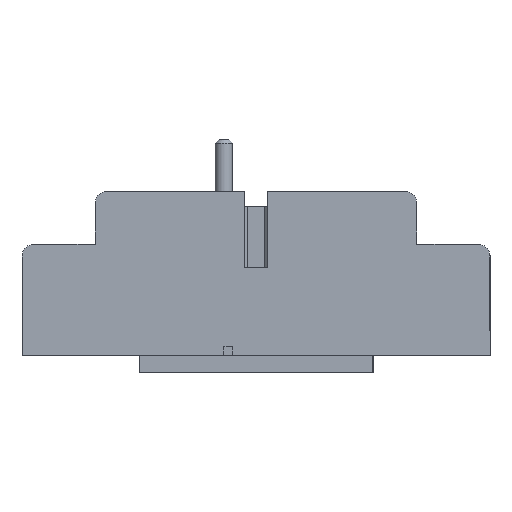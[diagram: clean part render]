
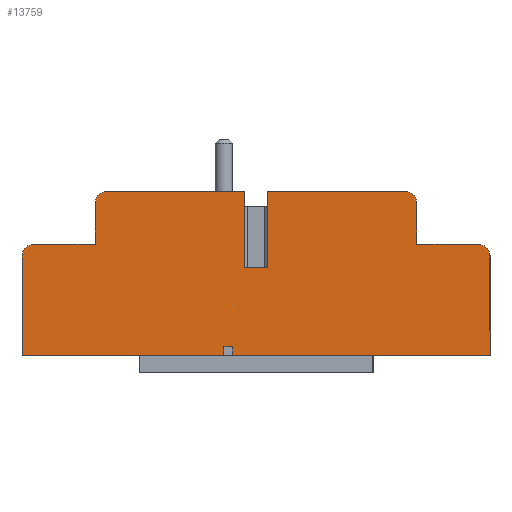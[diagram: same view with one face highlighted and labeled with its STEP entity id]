
A CAD part, left-side view. The second image highlights one B-rep face of the part: STEP entity #13759.
In plain terms, the highlighted planar face has unit normal (-1, 0, 0).
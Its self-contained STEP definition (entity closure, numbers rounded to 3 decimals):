
#13327=CARTESIAN_POINT('',(-46.067,0.229,-50.107));
#13328=VERTEX_POINT('',#13327);
#13335=CARTESIAN_POINT('',(-46.067,20.229,-50.107));
#13336=VERTEX_POINT('',#13335);
#13337=CARTESIAN_POINT('',(-46.067,0.229,-50.107));
#13338=DIRECTION('',(0.0,1.0,0.0));
#13339=VECTOR('',#13338,20.0);
#13340=LINE('',#13337,#13339);
#13341=EDGE_CURVE('',#13328,#13336,#13340,.T.);
#13365=CARTESIAN_POINT('',(-46.067,-39.771,-50.107));
#13366=VERTEX_POINT('',#13365);
#13381=CARTESIAN_POINT('',(-46.067,-59.771,-50.107));
#13382=VERTEX_POINT('',#13381);
#13389=CARTESIAN_POINT('',(-46.067,-59.771,-50.107));
#13390=DIRECTION('',(0.0,1.0,0.0));
#13391=VECTOR('',#13390,20.0);
#13392=LINE('',#13389,#13391);
#13393=EDGE_CURVE('',#13382,#13366,#13392,.T.);
#13403=CARTESIAN_POINT('',(-46.067,-14.271,-48.607));
#13404=VERTEX_POINT('',#13403);
#13413=CARTESIAN_POINT('',(-46.067,-14.271,-50.107));
#13414=VERTEX_POINT('',#13413);
#13415=CARTESIAN_POINT('',(-46.067,-14.271,-50.107));
#13416=DIRECTION('',(0.0,0.0,1.0));
#13417=VECTOR('',#13416,1.5);
#13418=LINE('',#13415,#13417);
#13419=EDGE_CURVE('',#13414,#13404,#13418,.T.);
#13474=CARTESIAN_POINT('',(-46.067,-15.771,-48.607));
#13475=VERTEX_POINT('',#13474);
#13483=CARTESIAN_POINT('',(-46.067,-15.771,-50.107));
#13484=VERTEX_POINT('',#13483);
#13491=CARTESIAN_POINT('',(-46.067,-15.771,-48.607));
#13492=DIRECTION('',(0.0,0.0,-1.0));
#13493=VECTOR('',#13492,1.5);
#13494=LINE('',#13491,#13493);
#13495=EDGE_CURVE('',#13475,#13484,#13494,.T.);
#13508=CARTESIAN_POINT('',(-46.067,-14.271,-48.607));
#13509=DIRECTION('',(0.0,-1.0,0.0));
#13510=VECTOR('',#13509,1.5);
#13511=LINE('',#13508,#13510);
#13512=EDGE_CURVE('',#13404,#13475,#13511,.T.);
#13613=CARTESIAN_POINT('',(-46.067,-19.771,-37.149));
#13614=DIRECTION('',(-1.0,0.0,0.0));
#13615=DIRECTION('',(0.0,-1.0,0.0));
#13616=AXIS2_PLACEMENT_3D('',#13613,#13614,#13615);
#13617=PLANE('',#13616);
#13618=ORIENTED_EDGE('',*,*,#13419,.T.);
#13619=ORIENTED_EDGE('',*,*,#13512,.T.);
#13620=ORIENTED_EDGE('',*,*,#13495,.T.);
#13621=CARTESIAN_POINT('',(-46.067,-39.771,-50.107));
#13622=DIRECTION('',(0.0,1.0,0.0));
#13623=VECTOR('',#13622,24.);
#13624=LINE('',#13621,#13623);
#13625=EDGE_CURVE('',#13366,#13484,#13624,.T.);
#13626=ORIENTED_EDGE('',*,*,#13625,.F.);
#13627=ORIENTED_EDGE('',*,*,#13393,.F.);
#13628=CARTESIAN_POINT('',(-46.067,-59.771,-33.107));
#13629=VERTEX_POINT('',#13628);
#13630=CARTESIAN_POINT('',(-46.067,-59.771,-33.107));
#13631=DIRECTION('',(0.0,0.0,-1.0));
#13632=VECTOR('',#13631,17.);
#13633=LINE('',#13630,#13632);
#13634=EDGE_CURVE('',#13629,#13382,#13633,.T.);
#13635=ORIENTED_EDGE('',*,*,#13634,.F.);
#13636=CARTESIAN_POINT('',(-46.067,-57.771,-31.107));
#13637=VERTEX_POINT('',#13636);
#13638=CARTESIAN_POINT('',(-46.067,-57.771,-33.107));
#13639=DIRECTION('',(1.,0.,0.));
#13640=DIRECTION('',(0.,-0.707,0.707));
#13641=AXIS2_PLACEMENT_3D('',#13638,#13639,#13640);
#13642=CIRCLE('',#13641,2.);
#13643=EDGE_CURVE('',#13637,#13629,#13642,.T.);
#13644=ORIENTED_EDGE('',*,*,#13643,.F.);
#13645=CARTESIAN_POINT('',(-46.067,-47.271,-31.107));
#13646=VERTEX_POINT('',#13645);
#13647=CARTESIAN_POINT('',(-46.067,-47.271,-31.107));
#13648=DIRECTION('',(0.0,-1.0,0.0));
#13649=VECTOR('',#13648,10.5);
#13650=LINE('',#13647,#13649);
#13651=EDGE_CURVE('',#13646,#13637,#13650,.T.);
#13652=ORIENTED_EDGE('',*,*,#13651,.F.);
#13653=CARTESIAN_POINT('',(-46.067,-47.271,-24.107));
#13654=VERTEX_POINT('',#13653);
#13655=CARTESIAN_POINT('',(-46.067,-47.271,-24.107));
#13656=DIRECTION('',(0.0,0.0,-1.0));
#13657=VECTOR('',#13656,7.);
#13658=LINE('',#13655,#13657);
#13659=EDGE_CURVE('',#13654,#13646,#13658,.T.);
#13660=ORIENTED_EDGE('',*,*,#13659,.F.);
#13661=CARTESIAN_POINT('',(-46.067,-45.271,-22.107));
#13662=VERTEX_POINT('',#13661);
#13663=CARTESIAN_POINT('',(-46.067,-45.271,-24.107));
#13664=DIRECTION('',(1.,0.,0.));
#13665=DIRECTION('',(0.,-0.707,0.707));
#13666=AXIS2_PLACEMENT_3D('',#13663,#13664,#13665);
#13667=CIRCLE('',#13666,2.);
#13668=EDGE_CURVE('',#13662,#13654,#13667,.T.);
#13669=ORIENTED_EDGE('',*,*,#13668,.F.);
#13670=CARTESIAN_POINT('',(-46.067,-21.771,-22.107));
#13671=VERTEX_POINT('',#13670);
#13672=CARTESIAN_POINT('',(-46.067,-21.771,-22.107));
#13673=DIRECTION('',(0.0,-1.0,0.0));
#13674=VECTOR('',#13673,23.5);
#13675=LINE('',#13672,#13674);
#13676=EDGE_CURVE('',#13671,#13662,#13675,.T.);
#13677=ORIENTED_EDGE('',*,*,#13676,.F.);
#13678=CARTESIAN_POINT('',(-46.067,-21.771,-35.107));
#13679=VERTEX_POINT('',#13678);
#13680=CARTESIAN_POINT('',(-46.067,-21.771,-22.107));
#13681=DIRECTION('',(0.0,0.0,-1.0));
#13682=VECTOR('',#13681,13.);
#13683=LINE('',#13680,#13682);
#13684=EDGE_CURVE('',#13671,#13679,#13683,.T.);
#13685=ORIENTED_EDGE('',*,*,#13684,.T.);
#13686=CARTESIAN_POINT('',(-46.067,-17.771,-35.107));
#13687=VERTEX_POINT('',#13686);
#13688=CARTESIAN_POINT('',(-46.067,-21.771,-35.107));
#13689=DIRECTION('',(0.0,1.0,0.0));
#13690=VECTOR('',#13689,4.);
#13691=LINE('',#13688,#13690);
#13692=EDGE_CURVE('',#13679,#13687,#13691,.T.);
#13693=ORIENTED_EDGE('',*,*,#13692,.T.);
#13694=CARTESIAN_POINT('',(-46.067,-17.771,-22.107));
#13695=VERTEX_POINT('',#13694);
#13696=CARTESIAN_POINT('',(-46.067,-17.771,-35.107));
#13697=DIRECTION('',(0.0,0.0,1.0));
#13698=VECTOR('',#13697,13.);
#13699=LINE('',#13696,#13698);
#13700=EDGE_CURVE('',#13687,#13695,#13699,.T.);
#13701=ORIENTED_EDGE('',*,*,#13700,.T.);
#13702=CARTESIAN_POINT('',(-46.067,5.729,-22.107));
#13703=VERTEX_POINT('',#13702);
#13704=CARTESIAN_POINT('',(-46.067,5.729,-22.107));
#13705=DIRECTION('',(0.0,-1.0,0.0));
#13706=VECTOR('',#13705,23.5);
#13707=LINE('',#13704,#13706);
#13708=EDGE_CURVE('',#13703,#13695,#13707,.T.);
#13709=ORIENTED_EDGE('',*,*,#13708,.F.);
#13710=CARTESIAN_POINT('',(-46.067,7.729,-24.107));
#13711=VERTEX_POINT('',#13710);
#13712=CARTESIAN_POINT('',(-46.067,5.729,-24.107));
#13713=DIRECTION('',(1.,0.,0.));
#13714=DIRECTION('',(0.,0.707,0.707));
#13715=AXIS2_PLACEMENT_3D('',#13712,#13713,#13714);
#13716=CIRCLE('',#13715,2.);
#13717=EDGE_CURVE('',#13711,#13703,#13716,.T.);
#13718=ORIENTED_EDGE('',*,*,#13717,.F.);
#13719=CARTESIAN_POINT('',(-46.067,7.729,-31.107));
#13720=VERTEX_POINT('',#13719);
#13721=CARTESIAN_POINT('',(-46.067,7.729,-31.107));
#13722=DIRECTION('',(0.0,0.0,1.0));
#13723=VECTOR('',#13722,7.0);
#13724=LINE('',#13721,#13723);
#13725=EDGE_CURVE('',#13720,#13711,#13724,.T.);
#13726=ORIENTED_EDGE('',*,*,#13725,.F.);
#13727=CARTESIAN_POINT('',(-46.067,18.229,-31.107));
#13728=VERTEX_POINT('',#13727);
#13729=CARTESIAN_POINT('',(-46.067,18.229,-31.107));
#13730=DIRECTION('',(0.0,-1.0,0.0));
#13731=VECTOR('',#13730,10.5);
#13732=LINE('',#13729,#13731);
#13733=EDGE_CURVE('',#13728,#13720,#13732,.T.);
#13734=ORIENTED_EDGE('',*,*,#13733,.F.);
#13735=CARTESIAN_POINT('',(-46.067,20.229,-33.107));
#13736=VERTEX_POINT('',#13735);
#13737=CARTESIAN_POINT('',(-46.067,18.229,-33.107));
#13738=DIRECTION('',(1.0,0.,0.));
#13739=DIRECTION('',(0.,0.707,0.707));
#13740=AXIS2_PLACEMENT_3D('',#13737,#13738,#13739);
#13741=CIRCLE('',#13740,2.);
#13742=EDGE_CURVE('',#13736,#13728,#13741,.T.);
#13743=ORIENTED_EDGE('',*,*,#13742,.F.);
#13744=CARTESIAN_POINT('',(-46.067,20.229,-50.107));
#13745=DIRECTION('',(0.0,0.0,1.0));
#13746=VECTOR('',#13745,17.0);
#13747=LINE('',#13744,#13746);
#13748=EDGE_CURVE('',#13336,#13736,#13747,.T.);
#13749=ORIENTED_EDGE('',*,*,#13748,.F.);
#13750=ORIENTED_EDGE('',*,*,#13341,.F.);
#13751=CARTESIAN_POINT('',(-46.067,-14.271,-50.107));
#13752=DIRECTION('',(0.0,1.0,0.0));
#13753=VECTOR('',#13752,14.5);
#13754=LINE('',#13751,#13753);
#13755=EDGE_CURVE('',#13414,#13328,#13754,.T.);
#13756=ORIENTED_EDGE('',*,*,#13755,.F.);
#13757=EDGE_LOOP('',(#13618,#13619,#13620,#13626,#13627,#13635,#13644,#13652,#13660,#13669,#13677,#13685,#13693,#13701,#13709,#13718,#13726,#13734,#13743,#13749,#13750,#13756));
#13758=FACE_OUTER_BOUND('',#13757,.T.);
#13759=ADVANCED_FACE('',(#13758),#13617,.T.);
